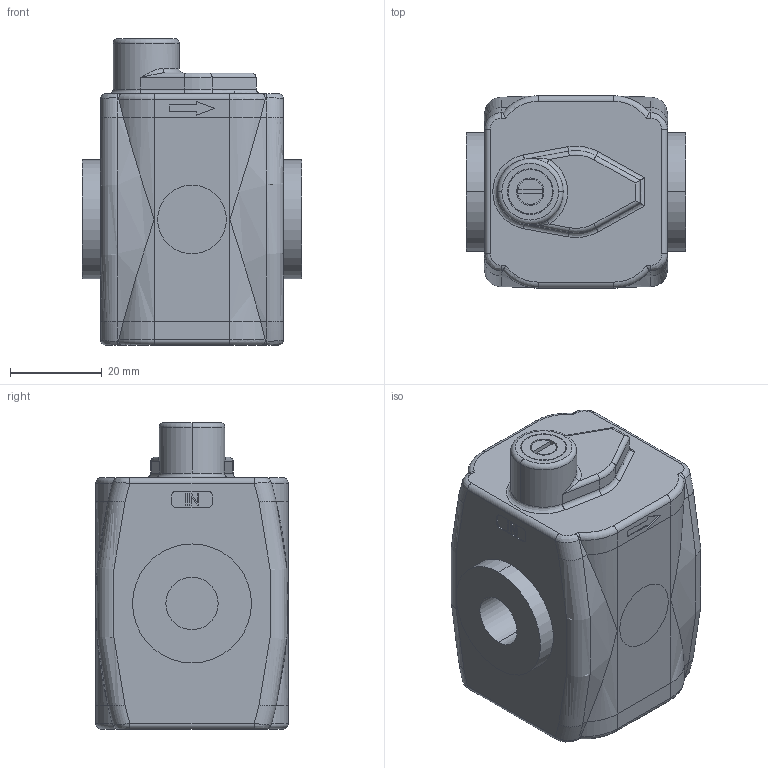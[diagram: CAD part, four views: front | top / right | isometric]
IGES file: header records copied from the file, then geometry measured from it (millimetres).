
Global section: file name: No Iges File Name specified; native system: Autodesk Inventor 2010; preprocessor: AutoDesk Inventor Iges Exporter R2010; author: valotma1; date: 20100823.141731; units: millimetre
Bounding box: 48 x 42 x 67 mm (x, y, z)
Volume: 94729.9 mm3; surface area: 13970.1 mm2
Topology: 1 solids, 1 shells, 223 faces, 532 edges, 330 vertices
Faces by surface type: plane 75, bspline 64, cylinder 45, torus 24, revolution 15
